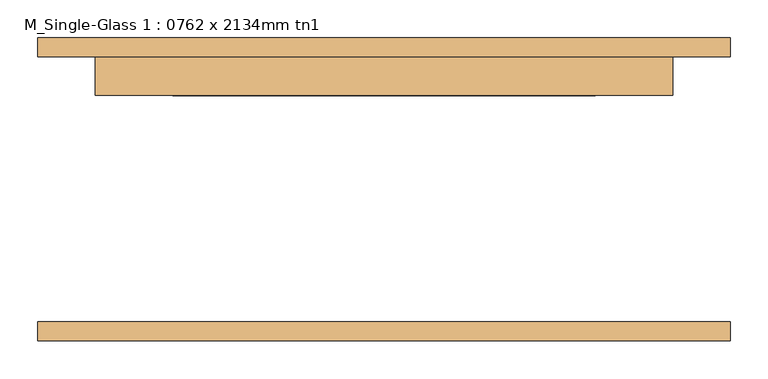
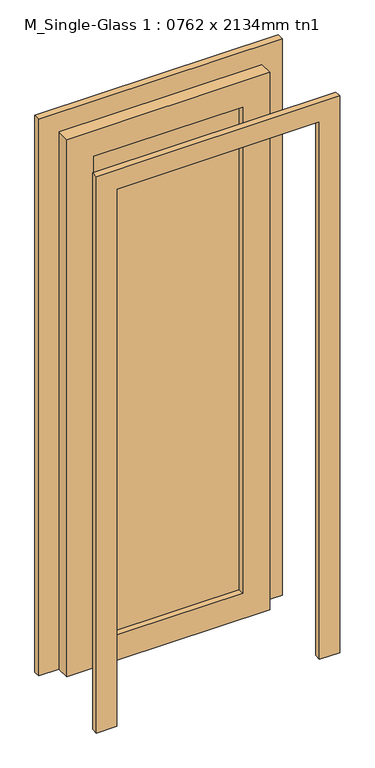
"""IFC4 building model written with IfcOpenShell, lengths in millimetres: door geometry, M_Single-Glass 1 : 0762 x 2134mm tn1."""

from ifc_helpers import new_model, si_unit, frame, origin, place, context, project, spatial, polyline, outline, extrude, source, transform, mapped, element, save


def m_single_glass_1_0762_x_2134mm_tn1_d435eb3c(model_context):
    return source(origin(), model_context, "Body", "SweptSolid", [
        extrude(outline(polyline([(2134.0, 381.0), (0.0, 381.0), (0.0, 457.0), (2210.0, 457.0), (2210.0, -457.0), (0.0, -457.0), (0.0, -381.0), (2134.0, -381.0), (2134.0, 381.0)])), frame((0.0, -200.0, 0.0), z_axis=(0.0, 1.0, 0.0), x_axis=(0.0, 0.0, 1.0)), (0.0, 0.0, 1.0), 25.0),
        extrude(outline(polyline([(2134.0, 381.0), (0.0, 381.0), (0.0, 457.0), (2210.0, 457.0), (2210.0, -457.0), (0.0, -457.0), (0.0, -381.0), (2134.0, -381.0), (2134.0, 381.0)])), frame((0.0, 175.0, 0.0), z_axis=(0.0, 1.0, 0.0), x_axis=(0.0, 0.0, 1.0)), (0.0, 0.0, 1.0), 25.0),
        extrude(outline(polyline([(279.0, 146.425), (-279.0, 146.425), (-279.0, 152.775), (279.0, 152.775), (279.0, 146.425)])), frame((0.0, 0.0, 102.0), z_axis=(0.0, 0.0, 1.0), x_axis=(1.0, 0.0, 0.0)), (0.0, 0.0, 1.0), 1930.0),
        extrude(outline(polyline([(2134.0, 381.0), (2134.0, -381.0), (0.0, -381.0), (0.0, 381.0), (2134.0, 381.0)]), holes=[polyline([(2032.0, -279.0), (2032.0, 279.0), (102.0, 279.0), (102.0, -279.0), (2032.0, -279.0)])]), frame((0.0, 124.0, 0.0), z_axis=(0.0, 1.0, 0.0), x_axis=(0.0, 0.0, 1.0)), (0.0, 0.0, 1.0), 51.0),
    ])


if __name__ == "__main__":
    model = new_model("IFC4")
    model_context = context("Model", 3, world=origin())
    ifc_project = project(units=[si_unit("LENGTHUNIT", "METRE", prefix="MILLI")], contexts=[model_context])
    site = spatial("IfcSite", under=ifc_project)
    building = spatial("IfcBuilding", under=site)
    placement = place(None, origin())
    m_single_glass_1_0762_x_2134mm_tn1_shape = m_single_glass_1_0762_x_2134mm_tn1_d435eb3c(model_context)
    element("IfcDoor", 1, ObjectType="M_Single-Glass 1 : 0762 x 2134mm tn1", at=placement, inside=building, context=model_context, shape_type="MappedRepresentation", body=[
        mapped(m_single_glass_1_0762_x_2134mm_tn1_shape, transform((0.0, 0.0, 0.0), x_axis=(1.0, 0.0, 0.0), y_axis=(0.0, 1.0, 0.0), z_axis=(0.0, 0.0, 1.0))),
    ])
    save(model, "model.ifc")
